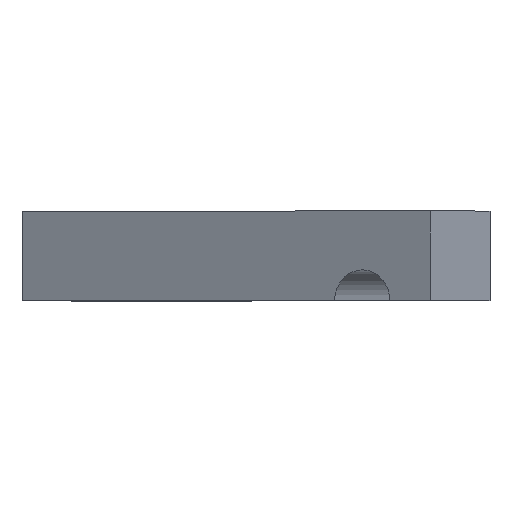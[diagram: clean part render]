
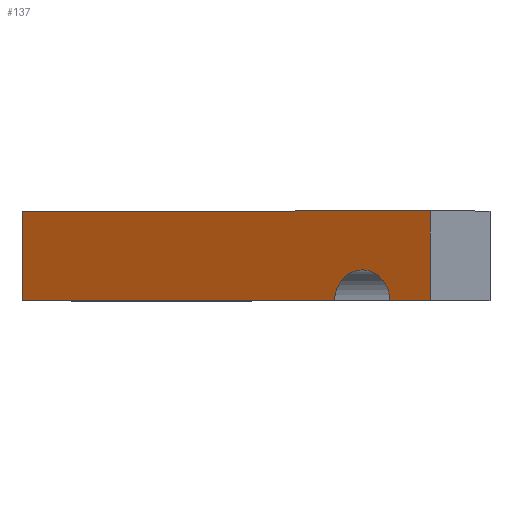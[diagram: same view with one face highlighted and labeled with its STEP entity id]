
A CAD part, top view. The second image highlights one B-rep face of the part: STEP entity #137.
In plain terms, the highlighted planar face has unit normal (-0.5, 0, 0.866).
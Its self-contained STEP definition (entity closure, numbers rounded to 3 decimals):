
#21 = EDGE_CURVE('',#22,#24,#26,.T.);
#22 = VERTEX_POINT('',#23);
#23 = CARTESIAN_POINT('',(-38.28,-0.9,3.303));
#24 = VERTEX_POINT('',#25);
#25 = CARTESIAN_POINT('',(-38.28,4.8,3.303));
#26 = SURFACE_CURVE('',#27,(#31,#43),.PCURVE_S1.);
#27 = LINE('',#28,#29);
#28 = CARTESIAN_POINT('',(-38.28,-9.,3.303));
#29 = VECTOR('',#30,1.);
#30 = DIRECTION('',(-0.,1.,0.));
#31 = PCURVE('',#32,#37);
#32 = PLANE('',#33);
#33 = AXIS2_PLACEMENT_3D('',#34,#35,#36);
#34 = CARTESIAN_POINT('',(-32.28,-9.,-7.09));
#35 = DIRECTION('',(0.866,0.,0.5));
#36 = DIRECTION('',(-0.5,0.,0.866));
#37 = DEFINITIONAL_REPRESENTATION('',(#38),#42);
#38 = LINE('',#39,#40);
#39 = CARTESIAN_POINT('',(12.,0.));
#40 = VECTOR('',#41,1.);
#41 = DIRECTION('',(0.,-1.));
#42 = ( GEOMETRIC_REPRESENTATION_CONTEXT(2) 
PARAMETRIC_REPRESENTATION_CONTEXT() REPRESENTATION_CONTEXT('2D SPACE',''
  ) );
#43 = PCURVE('',#44,#49);
#44 = PLANE('',#45);
#45 = AXIS2_PLACEMENT_3D('',#46,#47,#48);
#46 = CARTESIAN_POINT('',(-38.28,-9.,3.303));
#47 = DIRECTION('',(-0.5,0.,0.866));
#48 = DIRECTION('',(0.866,0.,0.5));
#49 = DEFINITIONAL_REPRESENTATION('',(#50),#54);
#50 = LINE('',#51,#52);
#51 = CARTESIAN_POINT('',(0.,0.));
#52 = VECTOR('',#53,1.);
#53 = DIRECTION('',(0.,1.));
#54 = ( GEOMETRIC_REPRESENTATION_CONTEXT(2) 
PARAMETRIC_REPRESENTATION_CONTEXT() REPRESENTATION_CONTEXT('2D SPACE',''
  ) );
#72 = PLANE('',#73);
#73 = AXIS2_PLACEMENT_3D('',#74,#75,#76);
#74 = CARTESIAN_POINT('',(-36.44,-0.9,-19.884));
#75 = DIRECTION('',(-0.,1.,0.));
#76 = DIRECTION('',(-0.5,-0.,0.866));
#126 = PLANE('',#127);
#127 = AXIS2_PLACEMENT_3D('',#128,#129,#130);
#128 = CARTESIAN_POINT('',(-36.44,4.8,-19.884));
#129 = DIRECTION('',(-0.,1.,0.));
#130 = DIRECTION('',(-0.5,-0.,0.866));
#137 = ADVANCED_FACE('',(#138),#44,.T.);
#138 = FACE_BOUND('',#139,.T.);
#139 = EDGE_LOOP('',(#140,#141,#164,#193,#221,#249));
#140 = ORIENTED_EDGE('',*,*,#21,.F.);
#141 = ORIENTED_EDGE('',*,*,#142,.F.);
#142 = EDGE_CURVE('',#143,#22,#145,.T.);
#143 = VERTEX_POINT('',#144);
#144 = CARTESIAN_POINT('',(-18.402,-0.9,14.779));
#145 = SURFACE_CURVE('',#146,(#150,#157),.PCURVE_S1.);
#146 = LINE('',#147,#148);
#147 = CARTESIAN_POINT('',(-42.61,-0.9,0.803));
#148 = VECTOR('',#149,1.);
#149 = DIRECTION('',(-0.866,-0.,-0.5));
#150 = PCURVE('',#44,#151);
#151 = DEFINITIONAL_REPRESENTATION('',(#152),#156);
#152 = LINE('',#153,#154);
#153 = CARTESIAN_POINT('',(-5.,8.1));
#154 = VECTOR('',#155,1.);
#155 = DIRECTION('',(-1.,0.));
#156 = ( GEOMETRIC_REPRESENTATION_CONTEXT(2) 
PARAMETRIC_REPRESENTATION_CONTEXT() REPRESENTATION_CONTEXT('2D SPACE',''
  ) );
#157 = PCURVE('',#72,#158);
#158 = DEFINITIONAL_REPRESENTATION('',(#159),#163);
#159 = LINE('',#160,#161);
#160 = CARTESIAN_POINT('',(21.,5.));
#161 = VECTOR('',#162,1.);
#162 = DIRECTION('',(0.,-1.));
#163 = ( GEOMETRIC_REPRESENTATION_CONTEXT(2) 
PARAMETRIC_REPRESENTATION_CONTEXT() REPRESENTATION_CONTEXT('2D SPACE',''
  ) );
#164 = ORIENTED_EDGE('',*,*,#165,.F.);
#165 = EDGE_CURVE('',#166,#143,#168,.T.);
#166 = VERTEX_POINT('',#167);
#167 = CARTESIAN_POINT('',(-14.856,-0.9,16.826));
#168 = SURFACE_CURVE('',#169,(#174,#181),.PCURVE_S1.);
#169 = CIRCLE('',#170,2.05);
#170 = AXIS2_PLACEMENT_3D('',#171,#172,#173);
#171 = CARTESIAN_POINT('',(-16.629,-1.,15.803));
#172 = DIRECTION('',(-0.5,0.,0.866));
#173 = DIRECTION('',(0.866,0.,0.5));
#174 = PCURVE('',#44,#175);
#175 = DEFINITIONAL_REPRESENTATION('',(#176),#180);
#176 = CIRCLE('',#177,2.05);
#177 = AXIS2_PLACEMENT_2D('',#178,#179);
#178 = CARTESIAN_POINT('',(25.,8.));
#179 = DIRECTION('',(1.,0.));
#180 = ( GEOMETRIC_REPRESENTATION_CONTEXT(2) 
PARAMETRIC_REPRESENTATION_CONTEXT() REPRESENTATION_CONTEXT('2D SPACE',''
  ) );
#181 = PCURVE('',#182,#187);
#182 = CYLINDRICAL_SURFACE('',#183,2.05);
#183 = AXIS2_PLACEMENT_3D('',#184,#185,#186);
#184 = CARTESIAN_POINT('',(-13.129,-1.,9.74));
#185 = DIRECTION('',(-0.5,0.,0.866));
#186 = DIRECTION('',(0.866,0.,0.5));
#187 = DEFINITIONAL_REPRESENTATION('',(#188),#192);
#188 = LINE('',#189,#190);
#189 = CARTESIAN_POINT('',(0.,7.));
#190 = VECTOR('',#191,1.);
#191 = DIRECTION('',(1.,0.));
#192 = ( GEOMETRIC_REPRESENTATION_CONTEXT(2) 
PARAMETRIC_REPRESENTATION_CONTEXT() REPRESENTATION_CONTEXT('2D SPACE',''
  ) );
#193 = ORIENTED_EDGE('',*,*,#194,.F.);
#194 = EDGE_CURVE('',#195,#166,#197,.T.);
#195 = VERTEX_POINT('',#196);
#196 = CARTESIAN_POINT('',(-12.299,-0.9,18.303));
#197 = SURFACE_CURVE('',#198,(#202,#209),.PCURVE_S1.);
#198 = LINE('',#199,#200);
#199 = CARTESIAN_POINT('',(-42.61,-0.9,0.803));
#200 = VECTOR('',#201,1.);
#201 = DIRECTION('',(-0.866,-0.,-0.5));
#202 = PCURVE('',#44,#203);
#203 = DEFINITIONAL_REPRESENTATION('',(#204),#208);
#204 = LINE('',#205,#206);
#205 = CARTESIAN_POINT('',(-5.,8.1));
#206 = VECTOR('',#207,1.);
#207 = DIRECTION('',(-1.,0.));
#208 = ( GEOMETRIC_REPRESENTATION_CONTEXT(2) 
PARAMETRIC_REPRESENTATION_CONTEXT() REPRESENTATION_CONTEXT('2D SPACE',''
  ) );
#209 = PCURVE('',#210,#215);
#210 = PLANE('',#211);
#211 = AXIS2_PLACEMENT_3D('',#212,#213,#214);
#212 = CARTESIAN_POINT('',(-36.44,-0.9,-19.884));
#213 = DIRECTION('',(-0.,1.,0.));
#214 = DIRECTION('',(-0.5,-0.,0.866));
#215 = DEFINITIONAL_REPRESENTATION('',(#216),#220);
#216 = LINE('',#217,#218);
#217 = CARTESIAN_POINT('',(21.,5.));
#218 = VECTOR('',#219,1.);
#219 = DIRECTION('',(0.,-1.));
#220 = ( GEOMETRIC_REPRESENTATION_CONTEXT(2) 
PARAMETRIC_REPRESENTATION_CONTEXT() REPRESENTATION_CONTEXT('2D SPACE',''
  ) );
#221 = ORIENTED_EDGE('',*,*,#222,.T.);
#222 = EDGE_CURVE('',#195,#223,#225,.T.);
#223 = VERTEX_POINT('',#224);
#224 = CARTESIAN_POINT('',(-12.299,4.8,18.303));
#225 = SURFACE_CURVE('',#226,(#230,#237),.PCURVE_S1.);
#226 = LINE('',#227,#228);
#227 = CARTESIAN_POINT('',(-12.299,-9.,18.303));
#228 = VECTOR('',#229,1.);
#229 = DIRECTION('',(-0.,1.,0.));
#230 = PCURVE('',#44,#231);
#231 = DEFINITIONAL_REPRESENTATION('',(#232),#236);
#232 = LINE('',#233,#234);
#233 = CARTESIAN_POINT('',(30.,0.));
#234 = VECTOR('',#235,1.);
#235 = DIRECTION('',(0.,1.));
#236 = ( GEOMETRIC_REPRESENTATION_CONTEXT(2) 
PARAMETRIC_REPRESENTATION_CONTEXT() REPRESENTATION_CONTEXT('2D SPACE',''
  ) );
#237 = PCURVE('',#238,#243);
#238 = PLANE('',#239);
#239 = AXIS2_PLACEMENT_3D('',#240,#241,#242);
#240 = CARTESIAN_POINT('',(-6.299,-9.,7.91));
#241 = DIRECTION('',(0.866,0.,0.5));
#242 = DIRECTION('',(-0.5,0.,0.866));
#243 = DEFINITIONAL_REPRESENTATION('',(#244),#248);
#244 = LINE('',#245,#246);
#245 = CARTESIAN_POINT('',(12.,0.));
#246 = VECTOR('',#247,1.);
#247 = DIRECTION('',(0.,-1.));
#248 = ( GEOMETRIC_REPRESENTATION_CONTEXT(2) 
PARAMETRIC_REPRESENTATION_CONTEXT() REPRESENTATION_CONTEXT('2D SPACE',''
  ) );
#249 = ORIENTED_EDGE('',*,*,#250,.T.);
#250 = EDGE_CURVE('',#223,#24,#251,.T.);
#251 = SURFACE_CURVE('',#252,(#256,#263),.PCURVE_S1.);
#252 = LINE('',#253,#254);
#253 = CARTESIAN_POINT('',(-42.61,4.8,0.803));
#254 = VECTOR('',#255,1.);
#255 = DIRECTION('',(-0.866,-0.,-0.5));
#256 = PCURVE('',#44,#257);
#257 = DEFINITIONAL_REPRESENTATION('',(#258),#262);
#258 = LINE('',#259,#260);
#259 = CARTESIAN_POINT('',(-5.,13.8));
#260 = VECTOR('',#261,1.);
#261 = DIRECTION('',(-1.,0.));
#262 = ( GEOMETRIC_REPRESENTATION_CONTEXT(2) 
PARAMETRIC_REPRESENTATION_CONTEXT() REPRESENTATION_CONTEXT('2D SPACE',''
  ) );
#263 = PCURVE('',#126,#264);
#264 = DEFINITIONAL_REPRESENTATION('',(#265),#269);
#265 = LINE('',#266,#267);
#266 = CARTESIAN_POINT('',(21.,5.));
#267 = VECTOR('',#268,1.);
#268 = DIRECTION('',(0.,-1.));
#269 = ( GEOMETRIC_REPRESENTATION_CONTEXT(2) 
PARAMETRIC_REPRESENTATION_CONTEXT() REPRESENTATION_CONTEXT('2D SPACE',''
  ) );
